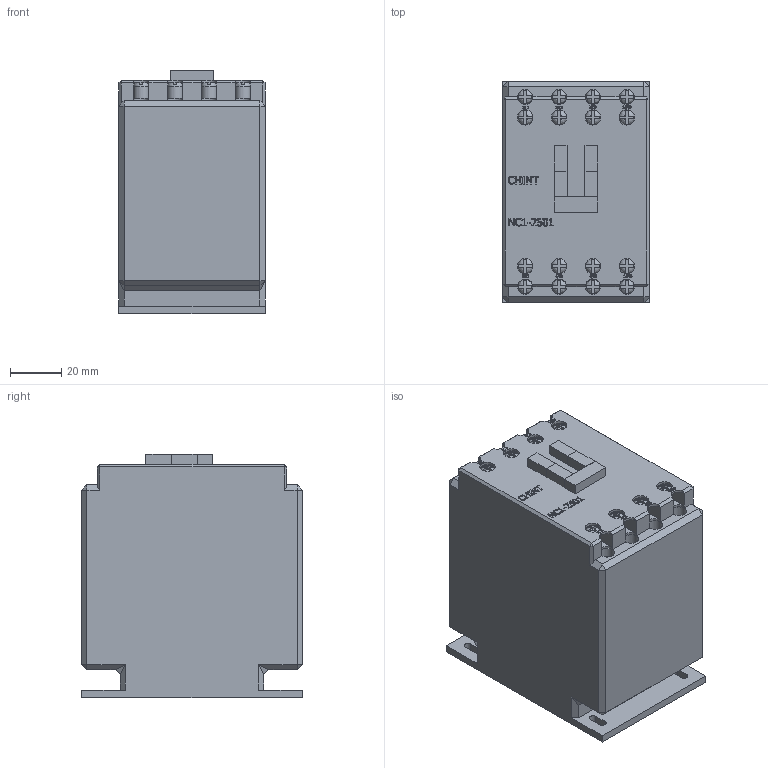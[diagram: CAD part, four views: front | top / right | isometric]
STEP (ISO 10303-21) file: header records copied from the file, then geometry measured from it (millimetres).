
FILE_DESCRIPTION(/* description */ (''),/* implementation_level */ '2;1');
FILE_NAME(/* name */ 'D:\CHINT2\NC1\NC1-2501 230В 50.stp',/* time_stamp */ '2017-11-12T20:17:36+03:00',/* author */ ('RSagdiev'),/* organization */ (''),/* preprocessor_version */ 'ST-DEVELOPER v16.5',/* originating_system */ 'Autodesk Inventor 2017',/* authorisation */ '');
FILE_SCHEMA (('AUTOMOTIVE_DESIGN { 1 0 10303 214 3 1 1 }'));
Length unit declared in the file: millimetre
Products named in the file (1): NC1-2501 230В 50
Bounding box: 57 x 86 x 95 mm (x, y, z)
Volume: 422464 mm3; surface area: 43704.2 mm2
Topology: 19 solids, 19 shells, 1062 faces, 2795 edges, 1826 vertices
Faces by surface type: plane 773, bspline 241, cylinder 48
Full cylindrical faces by diameter (mm): 5.8 x8, 6 x16
Entity records: 35213 total; most frequent: CARTESIAN_POINT 10607, ORIENTED_EDGE 5542, DIRECTION 4121, EDGE_CURVE 2771, LINE 1889, VECTOR 1889, VERTEX_POINT 1826, EDGE_LOOP 1165
